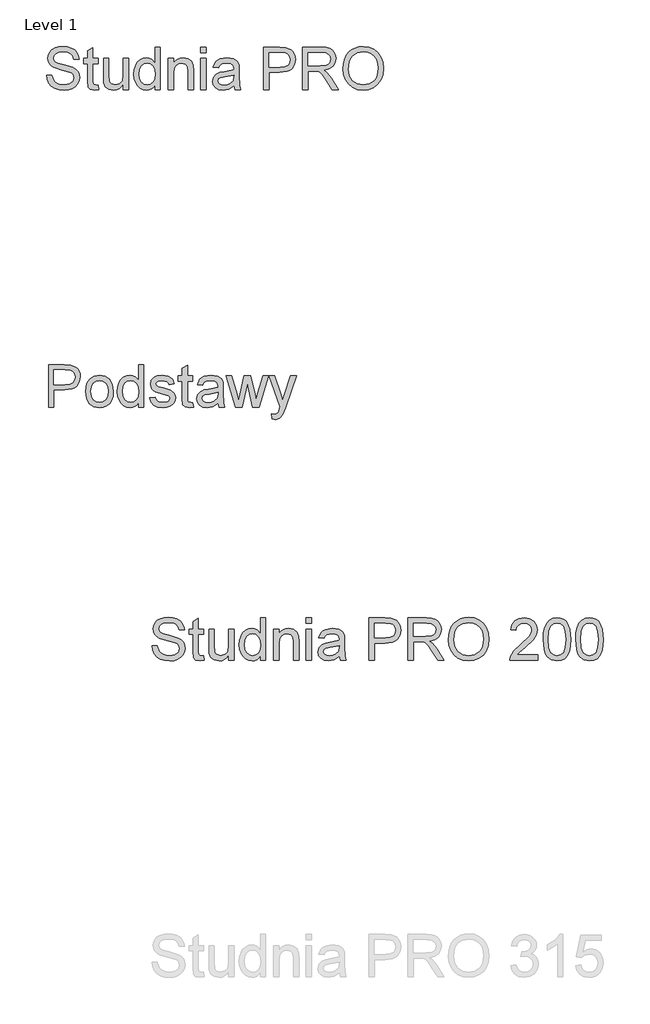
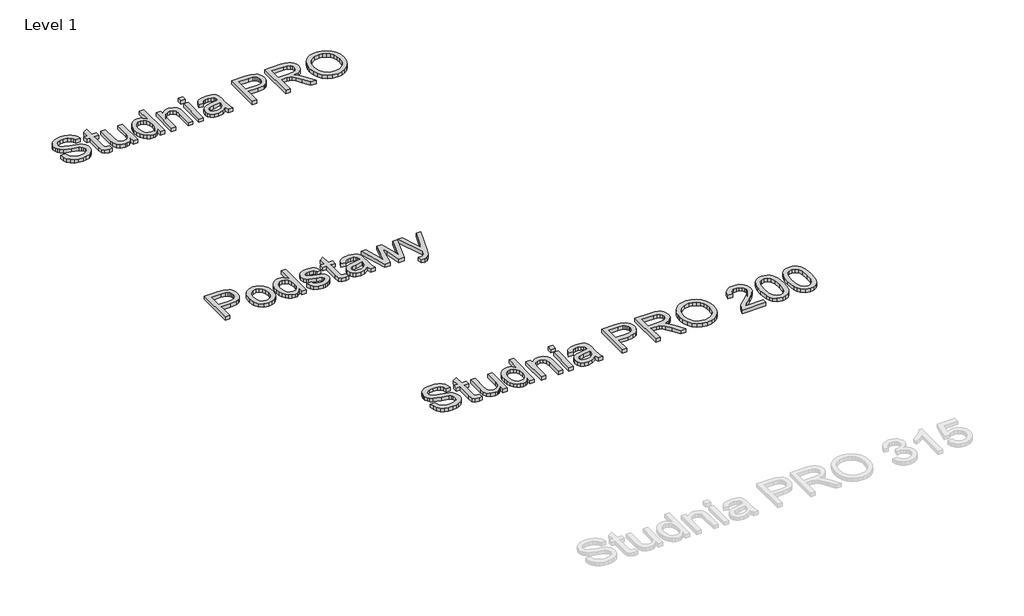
# One storey, part 8 of 8: 3 proxies.
"""IFC4 building model written with IfcOpenShell, lengths in millimetres."""

from ifc_helpers import new_model, si_unit, origin, origin_with_axes, place, context, project, spatial, polyline, outline, extrude, element, save

model = new_model("IFC4")

# Units and contexts
model_context = context("Model", 3, world=origin())
ifc_project = project(units=[si_unit("LENGTHUNIT", "METRE", prefix="MILLI")], contexts=[model_context])

# Site, building, storey
site = spatial("IfcSite", under=ifc_project)
building = spatial("IfcBuilding", under=site)
storey = spatial("IfcBuildingStorey", under=building, Name="Level 1", Elevation=0.0)

# Proxies
placement = place(None, origin())
element("IfcBuildingElementProxy", 1, Name="200mm Arial", ObjectType="200mm Arial", at=placement, inside=storey, context=model_context, shape_type="SweptSolid", body=[
    extrude(outline(polyline([(-17340.1100864, 2459.5263231), (-17314.9960089, 2459.5263231), (-17306.902605, 2434.3877201), (-17298.7724129, 2425.4972385), (-17287.1350791, 2418.4952179), (-17272.9103087, 2413.9518752), (-17257.0178065, 2412.4374277), (-17230.7755575, 2417.0236899), (-17213.8284602, 2429.6297796), (-17208.2611794, 2446.478775), (-17212.4305087, 2462.150548), (-17218.7826044, 2468.3493596), (-17229.5002332, 2473.5548898), (-17266.0677036, 2483.1443471), (-17305.431077, 2495.5297077), (-17317.9329335, 2503.9787308), (-17326.7927582, 2514.218113), (-17332.0718649, 2526.0271251), (-17333.8315671, 2539.1850377), (-17331.6549319, 2553.8941862), (-17325.1250265, 2567.6100532), (-17314.4135291, 2579.2351243), (-17299.6921179, 2587.6718847), (-17282.0215194, 2592.8038385), (-17262.46246, 2594.5144898), (-17241.2724571, 2592.7241308), (-17222.7312045, 2587.3530537), (-17207.5008899, 2578.511623), (-17196.2437009, 2566.3102035), (-17189.1190529, 2551.5090846), (-17186.2863615, 2534.8685557), (-17211.4004391, 2534.8685557), (-17216.0112267, 2549.8536156), (-17225.6252095, 2560.6693463), (-17240.6470577, 2567.2176458), (-17261.4814413, 2569.4004123), (-17282.8063343, 2567.2421712), (-17297.435775, 2560.7674481), (-17305.8970609, 2551.2393045), (-17308.7174895, 2539.9208017), (-17306.718664, 2530.2700307), (-17300.7221875, 2522.5077206), (-17286.5464679, 2515.5670137), (-17259.7156078, 2508.4791539), (-17215.2754628, 2495.8730642), (-17200.9587218, 2486.7618534), (-17190.9707256, 2475.5169271), (-17185.1030078, 2462.2609126), (-17183.1471018, 2447.1164371), (-17185.3973134, 2431.6347365), (-17192.147948, 2417.0727408), (-17203.1230942, 2404.5402275), (-17218.0468404, 2395.1469739), (-17235.9933504, 2389.2792561), (-17256.0367878, 2387.3233501), (-17280.6419619, 2389.4325402), (-17300.8938658, 2395.7601106), (-17317.0254912, 2406.3305866), (-17329.2698303, 2421.1684937), (-17337.1302423, 2439.2437624), (-17340.1100864, 2459.5263231)])), origin_with_axes(), (0.0, 0.0, 1.0), 20.0),
    extrude(outline(polyline([(-17095.2478305, 2411.4073581), (-17092.1085708, 2389.7268458), (-17110.895078, 2387.3233501), (-17131.9379281, 2391.4926794), (-17142.4348277, 2402.4310374), (-17145.4759855, 2430.9296293), (-17145.4759855, 2512.8937378), (-17164.3115437, 2512.8937378), (-17164.3115437, 2538.0078154), (-17145.4759855, 2538.0078154), (-17145.4759855, 2573.8640472), (-17120.361908, 2588.6283779), (-17120.361908, 2538.0078154), (-17095.2478305, 2538.0078154), (-17095.2478305, 2512.8937378), (-17120.361908, 2512.8937378), (-17120.361908, 2431.6653933), (-17119.0375328, 2418.7159471), (-17114.7455762, 2414.1296849), (-17106.1861884, 2412.4374277), (-17095.2478305, 2411.4073581)])), origin_with_axes(), (0.0, 0.0, 1.0), 20.0),
    extrude(outline(polyline([(-16975.9559622, 2390.4626098), (-16975.9559622, 2415.821942), (-16985.0426474, 2403.3538081), (-16995.6253862, 2394.4479981), (-17007.7041783, 2389.1045121), (-17021.279024, 2387.3233501), (-17044.8970481, 2392.3265453), (-17061.1819577, 2404.883584), (-17068.6622249, 2423.3757857), (-17070.1337529, 2446.7240296), (-17070.1337529, 2538.0078154), (-17045.0196754, 2538.0078154), (-17045.0196754, 2458.5453044), (-17043.4990965, 2432.9407175), (-17039.8386706, 2424.3997239), (-17033.5662826, 2417.9066067), (-17014.8533518, 2412.4374277), (-16993.8840781, 2418.029234), (-16985.5270254, 2424.6327158), (-16980.0271896, 2433.2595486), (-16975.9559622, 2461.2431057), (-16975.9559622, 2538.0078154), (-16950.8418846, 2538.0078154), (-16950.8418846, 2390.4626098), (-16975.9559622, 2390.4626098)])), origin_with_axes(), (0.0, 0.0, 1.0), 20.0),
    extrude(outline(polyline([(-16825.2714969, 2390.4626098), (-16825.2714969, 2414.1542103), (-16832.7854867, 2402.415709), (-16841.8875004, 2394.0310652), (-16852.577538, 2389.0002789), (-16864.8555996, 2387.3233501), (-16881.0914583, 2389.7513713), (-16895.9538909, 2397.0354348), (-16908.5354552, 2408.6666372), (-16917.9287088, 2424.1360751), (-16923.7780325, 2442.8183491), (-16925.7278071, 2464.0880598), (-16923.9313167, 2485.0941217), (-16918.5418454, 2504.0645699), (-16909.5655248, 2519.9202839), (-16897.008486, 2531.5821432), (-16881.821091, 2538.7558421), (-16864.9537015, 2541.1470751), (-16852.6664428, 2539.4364238), (-16841.8016612, 2534.3044699), (-16825.2714969, 2516.5235068), (-16825.2714969, 2591.3752301), (-16800.1574194, 2591.3752301), (-16800.1574194, 2390.4626098), (-16825.2714969, 2390.4626098)]), holes=[polyline([(-16900.6137295, 2464.1861617), (-16897.7810382, 2441.4694485), (-16889.2829641, 2425.3132975), (-16876.9343918, 2415.6563951), (-16862.5502058, 2412.4374277), (-16848.1721511, 2415.5092423), (-16836.1362785, 2424.7246863), (-16827.9876923, 2440.2554379), (-16825.2714969, 2462.2731753), (-16828.0367433, 2486.3449205), (-16836.3324823, 2503.0345004), (-16848.6749232, 2512.7833732), (-16863.5802754, 2516.0329975), (-16878.1116142, 2512.9121319), (-16890.0187281, 2503.5495351), (-16897.9649792, 2487.4669606), (-16900.6137295, 2464.1861617)])]), origin_with_axes(), (0.0, 0.0, 1.0), 20.0),
    extrude(outline(polyline([(-16762.4863031, 2390.4626098), (-16762.4863031, 2538.0078154), (-16737.3722255, 2538.0078154), (-16737.3722255, 2517.4064236), (-16728.6472909, 2527.7929586), (-16718.1687854, 2535.2119122), (-16705.9367091, 2539.6632843), (-16691.9510619, 2541.1470751), (-16668.2349359, 2536.3646091), (-16652.0481281, 2523.8075704), (-16644.51881, 2505.3398942), (-16643.1944348, 2481.0596825), (-16643.1944348, 2390.4626098), (-16668.3085123, 2390.4626098), (-16668.3085123, 2477.6751682), (-16671.2025174, 2499.8952407), (-16681.4296368, 2511.642939), (-16698.6710397, 2516.0329975), (-16713.3801881, 2513.5681882), (-16725.9188328, 2506.17376), (-16734.5088774, 2491.8876759), (-16737.3722255, 2468.7478984), (-16737.3722255, 2390.4626098), (-16762.4863031, 2390.4626098)])), origin_with_axes(), (0.0, 0.0, 1.0), 20.0),
    extrude(outline(polyline([(-16608.6625782, 2566.2611526), (-16608.6625782, 2591.3752301), (-16583.5485006, 2591.3752301), (-16583.5485006, 2566.2611526), (-16608.6625782, 2566.2611526)])), origin_with_axes(), (0.0, 0.0, 1.0), 20.0),
    extrude(outline(polyline([(-16608.6625782, 2390.4626098), (-16608.6625782, 2538.0078154), (-16583.5485006, 2538.0078154), (-16583.5485006, 2390.4626098), (-16608.6625782, 2390.4626098)])), origin_with_axes(), (0.0, 0.0, 1.0), 20.0),
    extrude(outline(polyline([(-16451.6995936, 2409.298168), (-16476.0533816, 2392.2774943), (-16502.9578182, 2387.3233501), (-16523.945486, 2390.3031943), (-16539.4271867, 2399.2427268), (-16548.9737245, 2412.8175724), (-16552.1559037, 2429.703356), (-16547.3489123, 2449.5689837), (-16534.7182971, 2463.9899579), (-16517.1335378, 2472.2305146), (-16495.4039746, 2476.0074364), (-16451.8467464, 2484.6404006), (-16451.6995936, 2490.2322069), (-16453.4286389, 2501.440345), (-16458.6157751, 2508.7734595), (-16470.2163207, 2514.218113), (-16486.378603, 2516.0329975), (-16501.3391374, 2514.8251183), (-16511.7869861, 2511.2014806), (-16518.9116341, 2504.499897), (-16523.9025665, 2494.0581797), (-16549.016644, 2497.1974394), (-16538.1518624, 2521.7229057), (-16528.8934989, 2529.9757251), (-16516.2751464, 2536.094829), (-16483.1412414, 2541.1470751), (-16452.7051377, 2536.6834402), (-16435.5127858, 2525.4753021), (-16427.8117893, 2508.430103), (-16426.585516, 2486.4552851), (-16426.585516, 2455.209841), (-16425.3101918, 2411.5790364), (-16420.3069966, 2390.4626098), (-16445.4210742, 2390.4626098), (-16451.6995936, 2409.298168)]), holes=[polyline([(-16451.6995936, 2459.5263231), (-16492.215664, 2451.8253266), (-16513.8225998, 2447.7540992), (-16523.6082609, 2441.1322233), (-16527.0418262, 2431.4691896), (-16525.1717594, 2424.0011851), (-16519.5615589, 2417.8820812), (-16510.3338522, 2413.7985911), (-16497.6112666, 2412.4374277), (-16484.1222601, 2413.9396125), (-16472.2028834, 2418.4461669), (-16455.8198719, 2432.9897685), (-16451.8467464, 2452.4139378), (-16451.6995936, 2459.5263231)])]), origin_with_axes(), (0.0, 0.0, 1.0), 20.0),
    extrude(outline(polyline([(-16310.4329074, 2390.4626098), (-16310.4329074, 2591.3752301), (-16235.9735916, 2591.3752301), (-16205.9544208, 2589.4622438), (-16181.5515818, 2580.0689901), (-16172.6794943, 2571.7425943), (-16165.732656, 2560.6448208), (-16161.2444956, 2547.5543531), (-16159.7484422, 2533.2498749), (-16163.7890128, 2509.5705371), (-16175.9107245, 2489.8397995), (-16185.6182107, 2482.071358), (-16198.5783868, 2476.5224712), (-16234.2568089, 2472.0833618), (-16285.3188299, 2472.0833618), (-16285.3188299, 2390.4626098), (-16310.4329074, 2390.4626098)]), holes=[polyline([(-16285.3188299, 2497.1974394), (-16232.785281, 2497.1974394), (-16210.5161575, 2499.5028332), (-16195.8008777, 2506.4190147), (-16187.5971092, 2517.5167882), (-16184.8625197, 2532.3669581), (-16186.4750691, 2543.6486726), (-16191.3127174, 2553.1645536), (-16198.7745905, 2560.3259897), (-16208.2598146, 2564.5443699), (-16233.3738922, 2566.2611526), (-16285.3188299, 2566.2611526), (-16285.3188299, 2497.1974394)])]), origin_with_axes(), (0.0, 0.0, 1.0), 20.0),
    extrude(outline(polyline([(-16125.2165856, 2390.4626098), (-16125.2165856, 2591.3752301), (-16038.6416894, 2591.3752301), (-16015.3731532, 2590.0201981), (-15998.44445, 2585.9551021), (-15986.0713523, 2578.4503094), (-15976.4696322, 2566.7761874), (-15970.3076088, 2552.3000309), (-15968.253601, 2536.3891346), (-15971.6565094, 2516.5970832), (-15981.8652348, 2500.1895463), (-15999.1863454, 2488.159805), (-16023.9264096, 2481.5011409), (-16009.6525882, 2470.7589866), (-15989.2964511, 2444.9091451), (-15955.7946641, 2390.4626098), (-15984.979969, 2390.4626098), (-16011.1241161, 2432.1068517), (-16030.0087252, 2459.6734759), (-16043.2770025, 2472.6964985), (-16055.2209046, 2477.4789644), (-16069.7890316, 2478.3618812), (-16100.102508, 2478.3618812), (-16100.102508, 2390.4626098), (-16125.2165856, 2390.4626098)]), holes=[polyline([(-16100.102508, 2503.4759587), (-16043.8901392, 2503.4759587), (-16015.219869, 2507.0321514), (-16005.7898272, 2511.6552018), (-15998.9349594, 2518.4119678), (-15993.3676785, 2535.4571669), (-15996.0225602, 2547.7076373), (-16003.9872054, 2557.5791375), (-16017.6908098, 2564.0906488), (-16037.5625689, 2566.2611526), (-16100.102508, 2566.2611526), (-16100.102508, 2503.4759587)])]), origin_with_axes(), (0.0, 0.0, 1.0), 20.0),
    extrude(outline(polyline([(-15933.7217444, 2488.2701696), (-15932.0478813, 2511.8360771), (-15927.026292, 2532.6980519), (-15918.6569767, 2550.856094), (-15906.9399351, 2566.3102035), (-15892.5772089, 2578.6495788), (-15876.2708394, 2587.4634182), (-15858.0208268, 2592.7517219), (-15837.8271709, 2594.5144898), (-15811.4745574, 2591.2035519), (-15787.8442705, 2581.270738), (-15768.2238975, 2565.415024), (-15753.9010251, 2544.3353857), (-15745.1454336, 2519.0496299), (-15742.2269031, 2490.5755635), (-15745.2987178, 2461.7213523), (-15754.5141618, 2436.0799772), (-15769.3643316, 2414.9635507), (-15789.340324, 2399.6841852), (-15812.7682757, 2390.4135589), (-15837.9743237, 2387.3233501), (-15864.7316075, 2390.7385213), (-15888.4967844, 2400.9840349), (-15908.0681066, 2417.1340545), (-15922.2438261, 2438.2627437), (-15930.8522648, 2462.5736123), (-15933.7217444, 2488.2701696)]), holes=[polyline([(-15908.6076668, 2488.024915), (-15903.5860776, 2456.5955298), (-15888.5213099, 2432.6464119), (-15865.8781731, 2417.4896737), (-15838.1214765, 2412.4374277), (-15809.9601098, 2417.5387247), (-15787.2801848, 2432.8426157), (-15778.556783, 2444.1151331), (-15772.3257817, 2457.5274976), (-15767.3409807, 2490.7717672), (-15769.4746962, 2513.0041024), (-15775.875843, 2532.2198053), (-15786.3788739, 2547.9344979), (-15800.8182422, 2559.6638021), (-15818.2374547, 2566.9662598), (-15837.6800181, 2569.4004123), (-15864.6948193, 2564.7099168), (-15887.6629186, 2550.6384305), (-15896.8262459, 2539.6893427), (-15903.3714798, 2525.6040608), (-15908.6076668, 2488.024915)])]), origin_with_axes(), (0.0, 0.0, 1.0), 20.0),
])
element("IfcBuildingElementProxy", 2, Name="200mm Arial", ObjectType="200mm Arial", at=placement, inside=storey, context=model_context, shape_type="SweptSolid", body=[
    extrude(outline(polyline([(-17330.6923074, 886.050427), (-17330.6923074, 1086.9630473), (-17256.2329915, 1086.9630473), (-17226.2138207, 1085.050061), (-17201.8109817, 1075.6568074), (-17192.9388943, 1067.3304115), (-17185.9920559, 1056.232638), (-17181.5038956, 1043.1421704), (-17180.0078421, 1028.8376921), (-17184.0484127, 1005.1583544), (-17196.1701245, 985.4276167), (-17205.8776106, 977.6591752), (-17218.8377867, 972.1102885), (-17254.5162089, 967.671179), (-17305.5782298, 967.671179), (-17305.5782298, 886.050427), (-17330.6923074, 886.050427)]), holes=[polyline([(-17305.5782298, 992.7852566), (-17253.0446809, 992.7852566), (-17230.7755575, 995.0906504), (-17216.0602777, 1002.0068319), (-17207.8565092, 1013.1046054), (-17205.1219197, 1027.9547753), (-17206.7344691, 1039.2364898), (-17211.5721173, 1048.7523708), (-17219.0339905, 1055.913807), (-17228.5192146, 1060.1321872), (-17253.6332921, 1061.8489698), (-17305.5782298, 1061.8489698), (-17305.5782298, 992.7852566)])]), origin_with_axes(), (0.0, 0.0, 1.0), 20.0),
    extrude(outline(polyline([(-17154.8937646, 959.8230298), (-17149.4613738, 995.3972187), (-17142.6708853, 1009.2203847), (-17133.1642014, 1020.4009317), (-17113.0287936, 1032.6514021), (-17088.9202601, 1036.7348923), (-17062.5369897, 1031.762354), (-17041.4634828, 1016.8447391), (-17027.6495138, 993.1592699), (-17023.0448575, 961.883169), (-17025.0804712, 936.5115741), (-17031.1873124, 917.1977693), (-17041.1875713, 902.7338755), (-17054.9034383, 891.9120135), (-17071.1944793, 885.1613789), (-17088.9202601, 882.9111674), (-17115.6223616, 887.8653116), (-17136.6713431, 902.7277442), (-17150.3381592, 926.909854), (-17154.8937646, 959.8230298)]), holes=[polyline([(-17129.7796871, 959.8720807), (-17126.8734193, 937.1431048), (-17118.154616, 920.9501657), (-17105.0334915, 911.2564751), (-17088.9202601, 908.0252449), (-17072.8806052, 911.2748692), (-17059.7840061, 921.0237421), (-17051.0652028, 937.431279), (-17048.1589351, 960.6568957), (-17051.0835969, 982.723684), (-17059.8575825, 998.695894), (-17072.9725756, 1008.3895845), (-17088.9202601, 1011.6208147), (-17105.0334915, 1008.4018473), (-17118.154616, 998.7449449), (-17126.8734193, 982.5887939), (-17129.7796871, 959.8720807)])]), origin_with_axes(), (0.0, 0.0, 1.0), 20.0),
    extrude(outline(polyline([(-16903.7529892, 886.050427), (-16903.7529892, 909.7420275), (-16911.266979, 898.0035262), (-16920.3689927, 889.6188824), (-16931.0590303, 884.5880961), (-16943.3370919, 882.9111674), (-16959.5729506, 885.3391885), (-16974.4353832, 892.623252), (-16987.0169475, 904.2544544), (-16996.4102011, 919.7238923), (-17002.2595248, 938.4061663), (-17004.2092994, 959.675877), (-17002.412809, 980.6819389), (-16997.0233377, 999.6523872), (-16988.0470171, 1015.5081011), (-16975.4899783, 1027.1699604), (-16960.3025833, 1034.3436593), (-16943.4351938, 1036.7348923), (-16931.1479351, 1035.024241), (-16920.2831536, 1029.8922872), (-16903.7529892, 1012.1113241), (-16903.7529892, 1086.9630473), (-16878.6389117, 1086.9630473), (-16878.6389117, 886.050427), (-16903.7529892, 886.050427)]), holes=[polyline([(-16979.0952218, 959.7739789), (-16976.2625305, 937.0572657), (-16967.7644564, 920.9011147), (-16955.4158841, 911.2442123), (-16941.0316981, 908.0252449), (-16926.6536434, 911.0970596), (-16914.6177708, 920.3125035), (-16906.4691846, 935.8432551), (-16903.7529892, 957.8609925), (-16906.5182356, 981.9327377), (-16914.8139746, 998.6223176), (-16927.1564155, 1008.3711904), (-16942.0617677, 1011.6208147), (-16956.5931065, 1008.4999491), (-16968.5002204, 999.1373524), (-16976.4464715, 983.0547778), (-16979.0952218, 959.7739789)])]), origin_with_axes(), (0.0, 0.0, 1.0), 20.0),
    extrude(outline(polyline([(-16850.3855745, 930.0000627), (-16825.2714969, 933.1393224), (-16821.3106341, 922.3971682), (-16813.6464259, 914.499968), (-16802.2298213, 909.6439257), (-16787.0117694, 908.0252449), (-16771.9776586, 909.5090356), (-16761.4071826, 913.9604077), (-16755.1531886, 920.4106054), (-16753.068524, 927.8908726), (-16755.1654514, 934.2920193), (-16761.4562335, 939.1725871), (-16787.306075, 946.3340233), (-16825.1243441, 958.621282), (-16834.6954074, 964.7955681), (-16841.629983, 972.9686798), (-16847.2463148, 993.226715), (-16842.733629, 1011.9396458), (-16830.4218449, 1026.2379927), (-16814.4557663, 1033.669209), (-16792.8488304, 1036.7348923), (-16762.2900994, 1031.8052735), (-16750.861232, 1026.0050007), (-16742.86593, 1018.4634198), (-16734.2329659, 995.9245163), (-16759.3470434, 992.7852566), (-16762.5169599, 1000.6885881), (-16768.7893479, 1006.6421451), (-16790.8867931, 1011.6208147), (-16805.3077673, 1010.4313296), (-16814.9217501, 1006.8628743), (-16820.3296155, 1001.7125263), (-16822.1322372, 995.7773635), (-16819.1401303, 988.4687745), (-16809.7714022, 982.9260191), (-16788.1399409, 977.5794674), (-16751.278165, 965.7581927), (-16734.1593895, 952.367288), (-16729.5056822, 942.5203133), (-16727.9544465, 930.539623), (-16729.7754623, 918.1542625), (-16735.23851, 906.504666), (-16744.1351229, 896.5044071), (-16756.2568346, 889.0670594), (-16770.898538, 884.4501404), (-16787.355126, 882.9111674), (-16812.67767, 885.8787488), (-16831.1576089, 894.7814931), (-16843.4939184, 909.5212983), (-16850.3855745, 930.0000627)])), origin_with_axes(), (0.0, 0.0, 1.0), 20.0),
    extrude(outline(polyline([(-16646.3336945, 906.9951753), (-16643.1944348, 885.3146631), (-16661.980942, 882.9111674), (-16683.0237921, 887.0804966), (-16693.5206917, 898.0188546), (-16696.5618496, 926.5174465), (-16696.5618496, 1008.481555), (-16715.3974077, 1008.481555), (-16715.3974077, 1033.5956326), (-16696.5618496, 1033.5956326), (-16696.5618496, 1069.4518644), (-16671.447772, 1084.2161951), (-16671.447772, 1033.5956326), (-16646.3336945, 1033.5956326), (-16646.3336945, 1008.481555), (-16671.447772, 1008.481555), (-16671.447772, 927.2532105), (-16670.1233968, 914.3037643), (-16665.8314402, 909.7175021), (-16657.2720525, 908.0252449), (-16646.3336945, 906.9951753)])), origin_with_axes(), (0.0, 0.0, 1.0), 20.0),
    extrude(outline(polyline([(-16527.0418262, 904.8859852), (-16551.3956143, 887.8653116), (-16578.3000508, 882.9111674), (-16599.2877187, 885.8910115), (-16614.7694193, 894.830544), (-16624.3159571, 908.4053896), (-16627.4981363, 925.2911732), (-16622.6911449, 945.1568009), (-16610.0605298, 959.5777751), (-16592.4757704, 967.8183318), (-16570.7462072, 971.5952537), (-16527.188979, 980.2282178), (-16527.0418262, 985.8200241), (-16528.7708716, 997.0281623), (-16533.9580077, 1004.3612767), (-16545.5585533, 1009.8059302), (-16561.7208356, 1011.6208147), (-16576.6813701, 1010.4129355), (-16587.1292187, 1006.7892979), (-16594.2538667, 1000.0877142), (-16599.2447991, 989.6459969), (-16624.3588766, 992.7852566), (-16613.494095, 1017.3107229), (-16604.2357315, 1025.5635424), (-16591.6173791, 1031.6826462), (-16558.483474, 1036.7348923), (-16528.0473703, 1032.2712574), (-16510.8550184, 1021.0631193), (-16503.154022, 1004.0179202), (-16501.9277486, 982.0431023), (-16501.9277486, 950.7976582), (-16500.6524244, 907.1668536), (-16495.6492293, 886.050427), (-16520.7633068, 886.050427), (-16527.0418262, 904.8859852)]), holes=[polyline([(-16527.0418262, 955.1141403), (-16567.5578966, 947.4131438), (-16589.1648324, 943.3419164), (-16598.9504935, 936.7200405), (-16602.3840588, 927.0570068), (-16600.513992, 919.5890023), (-16594.9037916, 913.4698984), (-16585.6760848, 909.3864083), (-16572.9534992, 908.0252449), (-16559.4644927, 909.5274297), (-16547.545116, 914.0339841), (-16531.1621045, 928.5775857), (-16527.188979, 948.001755), (-16527.0418262, 955.1141403)])]), origin_with_axes(), (0.0, 0.0, 1.0), 20.0),
    extrude(outline(polyline([(-16442.9194766, 886.050427), (-16487.80108, 1033.5956326), (-16461.7059838, 1033.5956326), (-16436.2485498, 947.5112457), (-16428.6456552, 916.7563109), (-16422.4161867, 946.3830743), (-16402.1581515, 1033.5956326), (-16372.2370826, 1033.5956326), (-16352.0771493, 946.6283289), (-16346.5343939, 919.7974687), (-16338.5881428, 948.0998569), (-16313.0816578, 1033.5956326), (-16286.8884597, 1033.5956326), (-16332.1134197, 886.050427), (-16362.475947, 886.050427), (-16381.7529635, 972.5762723), (-16387.3447699, 999.5542853), (-16412.2135927, 886.050427), (-16442.9194766, 886.050427)])), origin_with_axes(), (0.0, 0.0, 1.0), 20.0),
    extrude(outline(polyline([(-16269.6225314, 829.5437526), (-16272.7617911, 853.7258624), (-16260.0085486, 851.5185704), (-16248.089172, 854.2899481), (-16240.780583, 862.01547), (-16233.9134524, 880.5076717), (-16231.9514151, 886.5899873), (-16285.3188299, 1033.5956326), (-16258.8313262, 1033.5956326), (-16230.5289381, 951.680575), (-16220.6697006, 918.9145519), (-16210.8104631, 947.8546022), (-16181.72326, 1033.5956326), (-16155.4319601, 1033.5956326), (-16206.7882866, 882.5187599), (-16220.1301403, 849.7527369), (-16234.6982673, 832.0453502), (-16254.2695895, 826.4044929), (-16269.6225314, 829.5437526)])), origin_with_axes(), (0.0, 0.0, 1.0), 20.0),
])
element("IfcBuildingElementProxy", 3, Name="200mm Arial", ObjectType="200mm Arial", at=placement, inside=storey, context=model_context, shape_type="SweptSolid", body=[
    extrude(outline(polyline([(-16840.1100864, -244.8858597), (-16814.9960089, -244.8858597), (-16806.902605, -270.0244627), (-16798.7724129, -278.9149443), (-16787.1350791, -285.9169649), (-16772.9103087, -290.4603076), (-16757.0178065, -291.9747551), (-16730.7755575, -287.3884929), (-16713.8284602, -274.7824032), (-16708.2611794, -257.9334078), (-16712.4305087, -242.2616348), (-16718.7826044, -236.0628232), (-16729.5002332, -230.857293), (-16766.0677036, -221.2678356), (-16805.431077, -208.8824751), (-16817.9329335, -200.433452), (-16826.7927582, -190.1940698), (-16832.0718649, -178.3850577), (-16833.8315671, -165.227145), (-16831.6549319, -150.5179966), (-16825.1250265, -136.8021295), (-16814.4135291, -125.1770585), (-16799.6921179, -116.7402981), (-16782.0215194, -111.6083442), (-16762.46246, -109.897693), (-16741.2724571, -111.688052), (-16722.7312045, -117.0591291), (-16707.5008899, -125.9005598), (-16696.2437009, -138.1019793), (-16689.1190529, -152.9030982), (-16686.2863615, -169.5436271), (-16711.4004391, -169.5436271), (-16716.0112267, -154.5585672), (-16725.6252095, -143.7428365), (-16740.6470577, -137.194537), (-16761.4814413, -135.0117705), (-16782.8063343, -137.1700115), (-16797.435775, -143.6447347), (-16805.8970609, -153.1728783), (-16808.7174895, -164.491381), (-16806.718664, -174.1421521), (-16800.7221875, -181.9044622), (-16786.5464679, -188.8451691), (-16759.7156078, -195.9330289), (-16715.2754628, -208.5391186), (-16700.9587218, -217.6503293), (-16690.9707256, -228.8952557), (-16685.1030078, -242.1512702), (-16683.1471018, -257.2957457), (-16685.3973134, -272.7774463), (-16692.147948, -287.339442), (-16703.1230942, -299.8719553), (-16718.0468404, -309.2652089), (-16735.9933504, -315.1329267), (-16756.0367878, -317.0888326), (-16780.6419619, -314.9796425), (-16800.8938658, -308.6520722), (-16817.0254912, -298.0815962), (-16829.2698303, -283.2436891), (-16837.1302423, -265.1684204), (-16840.1100864, -244.8858597)])), origin_with_axes(), (0.0, 0.0, 1.0), 20.0),
    extrude(outline(polyline([(-16595.2478305, -293.0048247), (-16592.1085708, -314.6853369), (-16610.895078, -317.0888326), (-16631.9379281, -312.9195034), (-16642.4348277, -301.9811454), (-16645.4759855, -273.4825535), (-16645.4759855, -191.518445), (-16664.3115437, -191.518445), (-16664.3115437, -166.4043674), (-16645.4759855, -166.4043674), (-16645.4759855, -130.5481356), (-16620.361908, -115.7838049), (-16620.361908, -166.4043674), (-16595.2478305, -166.4043674), (-16595.2478305, -191.518445), (-16620.361908, -191.518445), (-16620.361908, -272.7467895), (-16619.0375328, -285.6962357), (-16614.7455762, -290.2824979), (-16606.1861884, -291.9747551), (-16595.2478305, -293.0048247)])), origin_with_axes(), (0.0, 0.0, 1.0), 20.0),
    extrude(outline(polyline([(-16475.9559622, -313.949573), (-16475.9559622, -288.5902408), (-16485.0426474, -301.0583747), (-16495.6253862, -309.9641847), (-16507.7041783, -315.3076707), (-16521.279024, -317.0888326), (-16544.8970481, -312.0856375), (-16561.1819577, -299.5285987), (-16568.6622249, -281.0363971), (-16570.1337529, -257.6881532), (-16570.1337529, -166.4043674), (-16545.0196754, -166.4043674), (-16545.0196754, -245.8668784), (-16543.4990965, -271.4714652), (-16539.8386706, -280.0124589), (-16533.5662826, -286.5055761), (-16514.8533518, -291.9747551), (-16493.8840781, -286.3829488), (-16485.5270254, -279.779467), (-16480.0271896, -271.1526342), (-16475.9559622, -243.1690771), (-16475.9559622, -166.4043674), (-16450.8418846, -166.4043674), (-16450.8418846, -313.949573), (-16475.9559622, -313.949573)])), origin_with_axes(), (0.0, 0.0, 1.0), 20.0),
    extrude(outline(polyline([(-16325.2714969, -313.949573), (-16325.2714969, -290.2579725), (-16332.7854867, -301.9964738), (-16341.8875004, -310.3811176), (-16352.577538, -315.4119039), (-16364.8555996, -317.0888326), (-16381.0914583, -314.6608115), (-16395.9538909, -307.376748), (-16408.5354552, -295.7455456), (-16417.9287088, -280.2761077), (-16423.7780325, -261.5938337), (-16425.7278071, -240.324123), (-16423.9313167, -219.3180611), (-16418.5418454, -200.3476128), (-16409.5655248, -184.4918989), (-16397.008486, -172.8300396), (-16381.821091, -165.6563407), (-16364.9537015, -163.2651077), (-16352.6664428, -164.975759), (-16341.8016612, -170.1077128), (-16325.2714969, -187.8886759), (-16325.2714969, -113.0369527), (-16300.1574194, -113.0369527), (-16300.1574194, -313.949573), (-16325.2714969, -313.949573)]), holes=[polyline([(-16400.6137295, -240.2260211), (-16397.7810382, -262.9427343), (-16389.2829641, -279.0988853), (-16376.9343918, -288.7557877), (-16362.5502058, -291.9747551), (-16348.1721511, -288.9029404), (-16336.1362785, -279.6874965), (-16327.9876923, -264.1567449), (-16325.2714969, -242.1390075), (-16328.0367433, -218.0672623), (-16336.3324823, -201.3776824), (-16348.6749232, -191.6288096), (-16363.5802754, -188.3791853), (-16378.1116142, -191.5000509), (-16390.0187281, -200.8626476), (-16397.9649792, -216.9452222), (-16400.6137295, -240.2260211)])]), origin_with_axes(), (0.0, 0.0, 1.0), 20.0),
    extrude(outline(polyline([(-16262.4863031, -313.949573), (-16262.4863031, -166.4043674), (-16237.3722255, -166.4043674), (-16237.3722255, -187.0057592), (-16228.6472909, -176.6192242), (-16218.1687854, -169.2002706), (-16205.9367091, -164.7488984), (-16191.9510619, -163.2651077), (-16168.2349359, -168.0475737), (-16152.0481281, -180.6046124), (-16144.51881, -199.0722886), (-16143.1944348, -223.3525003), (-16143.1944348, -313.949573), (-16168.3085123, -313.949573), (-16168.3085123, -226.7370146), (-16171.2025174, -204.5169421), (-16181.4296368, -192.7692437), (-16198.6710397, -188.3791853), (-16213.3801881, -190.8439946), (-16225.9188328, -198.2384227), (-16234.5088774, -212.5245069), (-16237.3722255, -235.6642844), (-16237.3722255, -313.949573), (-16262.4863031, -313.949573)])), origin_with_axes(), (0.0, 0.0, 1.0), 20.0),
    extrude(outline(polyline([(-16108.6625782, -138.1510302), (-16108.6625782, -113.0369527), (-16083.5485006, -113.0369527), (-16083.5485006, -138.1510302), (-16108.6625782, -138.1510302)])), origin_with_axes(), (0.0, 0.0, 1.0), 20.0),
    extrude(outline(polyline([(-16108.6625782, -313.949573), (-16108.6625782, -166.4043674), (-16083.5485006, -166.4043674), (-16083.5485006, -313.949573), (-16108.6625782, -313.949573)])), origin_with_axes(), (0.0, 0.0, 1.0), 20.0),
    extrude(outline(polyline([(-15951.6995936, -295.1140148), (-15976.0533816, -312.1346884), (-16002.9578182, -317.0888326), (-16023.945486, -314.1089885), (-16039.4271867, -305.169456), (-16048.9737245, -291.5946104), (-16052.1559037, -274.7088268), (-16047.3489123, -254.8431991), (-16034.7182971, -240.4222249), (-16017.1335378, -232.1816682), (-15995.4039746, -228.4047463), (-15951.8467464, -219.7717822), (-15951.6995936, -214.1799759), (-15953.4286389, -202.9718377), (-15958.6157751, -195.6387233), (-15970.2163207, -190.1940698), (-15986.378603, -188.3791853), (-16001.3391374, -189.5870645), (-16011.7869861, -193.2107021), (-16018.9116341, -199.9122858), (-16023.9025665, -210.3540031), (-16049.016644, -207.2147434), (-16038.1518624, -182.6892771), (-16028.8934989, -174.4364576), (-16016.2751464, -168.3173538), (-15983.1412414, -163.2651077), (-15952.7051377, -167.7287426), (-15935.5127858, -178.9368807), (-15927.8117893, -195.9820798), (-15926.585516, -217.9568977), (-15926.585516, -249.2023418), (-15925.3101918, -292.8331464), (-15920.3069966, -313.949573), (-15945.4210742, -313.949573), (-15951.6995936, -295.1140148)]), holes=[polyline([(-15951.6995936, -244.8858597), (-15992.215664, -252.5868562), (-16013.8225998, -256.6580836), (-16023.6082609, -263.2799595), (-16027.0418262, -272.9429932), (-16025.1717594, -280.4109977), (-16019.5615589, -286.5301016), (-16010.3338522, -290.6135917), (-15997.6112666, -291.9747551), (-15984.1222601, -290.4725703), (-15972.2028834, -285.9660159), (-15955.8198719, -271.4224143), (-15951.8467464, -251.998245), (-15951.6995936, -244.8858597)])]), origin_with_axes(), (0.0, 0.0, 1.0), 20.0),
    extrude(outline(polyline([(-15810.4329074, -313.949573), (-15810.4329074, -113.0369527), (-15735.9735916, -113.0369527), (-15705.9544208, -114.949939), (-15681.5515818, -124.3431926), (-15672.6794943, -132.6695885), (-15665.732656, -143.767362), (-15661.2444956, -156.8578296), (-15659.7484422, -171.1623079), (-15663.7890128, -194.8416456), (-15675.9107245, -214.5723833), (-15685.6182107, -222.3408248), (-15698.5783868, -227.8897115), (-15734.2568089, -232.328821), (-15785.3188299, -232.328821), (-15785.3188299, -313.949573), (-15810.4329074, -313.949573)]), holes=[polyline([(-15785.3188299, -207.2147434), (-15732.785281, -207.2147434), (-15710.5161575, -204.9093496), (-15695.8008777, -197.9931681), (-15687.5971092, -186.8953946), (-15684.8625197, -172.0452247), (-15686.4750691, -160.7635102), (-15691.3127174, -151.2476292), (-15698.7745905, -144.086193), (-15708.2598146, -139.8678128), (-15733.3738922, -138.1510302), (-15785.3188299, -138.1510302), (-15785.3188299, -207.2147434)])]), origin_with_axes(), (0.0, 0.0, 1.0), 20.0),
    extrude(outline(polyline([(-15625.2165856, -313.949573), (-15625.2165856, -113.0369527), (-15538.6416894, -113.0369527), (-15515.3731532, -114.3919847), (-15498.44445, -118.4570807), (-15486.0713523, -125.9618734), (-15476.4696322, -137.6359954), (-15470.3076088, -152.1121519), (-15468.253601, -168.0230482), (-15471.6565094, -187.8150995), (-15481.8652348, -204.2226365), (-15499.1863454, -216.2523778), (-15523.9264096, -222.9110419), (-15509.6525882, -233.6531961), (-15489.2964511, -259.5030377), (-15455.7946641, -313.949573), (-15484.979969, -313.949573), (-15511.1241161, -272.3053311), (-15530.0087252, -244.7387069), (-15543.2770025, -231.7156843), (-15555.2209046, -226.9332184), (-15569.7890316, -226.0503016), (-15600.102508, -226.0503016), (-15600.102508, -313.949573), (-15625.2165856, -313.949573)]), holes=[polyline([(-15600.102508, -200.936224), (-15543.8901392, -200.936224), (-15515.219869, -197.3800314), (-15505.7898272, -192.756981), (-15498.9349594, -186.000215), (-15493.3676785, -168.9550159), (-15496.0225602, -156.7045455), (-15503.9872054, -146.8330453), (-15517.6908098, -140.321534), (-15537.5625689, -138.1510302), (-15600.102508, -138.1510302), (-15600.102508, -200.936224)])]), origin_with_axes(), (0.0, 0.0, 1.0), 20.0),
    extrude(outline(polyline([(-15433.7217444, -216.1420132), (-15432.0478813, -192.5761057), (-15427.026292, -171.7141309), (-15418.6569767, -153.5560887), (-15406.9399351, -138.1019793), (-15392.5772089, -125.762604), (-15376.2708394, -116.9487645), (-15358.0208268, -111.6604609), (-15337.8271709, -109.897693), (-15311.4745574, -113.2086309), (-15287.8442705, -123.1414448), (-15268.2238975, -138.9971588), (-15253.9010251, -160.0767971), (-15245.1454336, -185.3625529), (-15242.2269031, -213.8366193), (-15245.2987178, -242.6908305), (-15254.5141618, -268.3322056), (-15269.3643316, -289.4486321), (-15289.340324, -304.7279976), (-15312.7682757, -313.9986239), (-15337.9743237, -317.0888326), (-15364.7316075, -313.6736615), (-15388.4967844, -303.4281479), (-15408.0681066, -287.2781283), (-15422.2438261, -266.149439), (-15430.8522648, -241.8385705), (-15433.7217444, -216.1420132)]), holes=[polyline([(-15408.6076668, -216.3872678), (-15403.5860776, -247.816653), (-15388.5213099, -271.7657708), (-15365.8781731, -286.922509), (-15338.1214765, -291.9747551), (-15309.9601098, -286.8734581), (-15287.2801848, -271.5695671), (-15278.556783, -260.2970496), (-15272.3257817, -246.8846852), (-15267.3409807, -213.6404156), (-15269.4746962, -191.4080804), (-15275.875843, -172.1923775), (-15286.3788739, -156.4776849), (-15300.8182422, -144.7483806), (-15318.2374547, -137.445923), (-15337.6800181, -135.0117705), (-15364.6948193, -139.7022659), (-15387.6629186, -153.7737523), (-15396.8262459, -164.7228401), (-15403.3714798, -178.808122), (-15408.6076668, -216.3872678)])]), origin_with_axes(), (0.0, 0.0, 1.0), 20.0),
    extrude(outline(polyline([(-15009.9216859, -288.8354954), (-15009.9216859, -313.949573), (-15141.770593, -313.949573), (-15139.0727917, -296.6345937), (-15123.8179516, -269.9754118), (-15092.3763038, -240.8636832), (-15049.0152793, -199.0232377), (-15040.8850872, -184.6022634), (-15038.1750231, -170.5736967), (-15040.731803, -157.9982638), (-15048.4021426, -147.5442838), (-15060.1927605, -140.4993436), (-15075.1103755, -138.1510302), (-15090.7760171, -140.4441613), (-15102.9467798, -147.3235546), (-15110.8010604, -158.2496499), (-15113.5172558, -172.6828868), (-15138.6313333, -169.5436271), (-15132.5428863, -145.2511527), (-15119.3788422, -127.5069778), (-15099.8259142, -116.6544589), (-15074.5708152, -113.0369527), (-15049.1317752, -117.0591291), (-15029.6156354, -129.1256586), (-15017.199618, -147.1518763), (-15013.0609456, -169.0531178), (-15017.5245805, -192.8673456), (-15032.3624876, -217.4909138), (-15068.3413467, -251.9001431), (-15097.2323461, -276.0577275), (-15108.5631115, -288.8354954), (-15009.9216859, -288.8354954)])), origin_with_axes(), (0.0, 0.0, 1.0), 20.0),
    extrude(outline(polyline([(-14984.8076084, -215.1119436), (-14982.962067, -182.9529258), (-14977.425443, -157.3054194), (-14968.2529186, -137.7770168), (-14955.4996761, -123.9753106), (-14939.073745, -115.7715422), (-14918.8831548, -113.0369527), (-14903.4075856, -114.6556334), (-14889.5506971, -119.5116758), (-14877.9624142, -127.4150073), (-14869.2926619, -138.1755557), (-14857.520438, -167.9004209), (-14852.9587013, -215.1119436), (-14854.7858485, -247.0870203), (-14860.2672903, -272.6732131), (-14869.3846324, -292.2200098), (-14882.1194808, -306.0768983), (-14898.5822001, -314.335849), (-14918.8831548, -317.0888326), (-14944.978251, -312.3063667), (-14964.7948278, -297.9589689), (-14973.5504193, -282.8298218), (-14979.8044132, -263.9789353), (-14984.8076084, -215.1119436)]), holes=[polyline([(-14959.6935308, -215.0628927), (-14956.7504749, -254.5672876), (-14947.921307, -277.4311536), (-14934.775657, -288.3388547), (-14918.8831548, -291.9747551), (-14902.9906526, -288.326592), (-14889.8450027, -277.3821026), (-14881.0158348, -254.5059739), (-14878.0727788, -215.0628927), (-14880.9177329, -176.4475459), (-14889.4525952, -153.4058703), (-14902.5737197, -141.9647402), (-14919.1774604, -138.1510302), (-14934.8982844, -141.5110191), (-14947.5288995, -151.5909857), (-14956.652373, -176.0674012), (-14959.6935308, -215.0628927)])]), origin_with_axes(), (0.0, 0.0, 1.0), 20.0),
    extrude(outline(polyline([(-14830.9838835, -215.1119436), (-14829.1383421, -182.9529258), (-14823.6017181, -157.3054194), (-14814.4291937, -137.7770168), (-14801.6759512, -123.9753106), (-14785.2500201, -115.7715422), (-14765.0594299, -113.0369527), (-14749.5838607, -114.6556334), (-14735.7269722, -119.5116758), (-14724.1386893, -127.4150073), (-14715.468937, -138.1755557), (-14703.6967131, -167.9004209), (-14699.1349764, -215.1119436), (-14700.9621236, -247.0870203), (-14706.4435654, -272.6732131), (-14715.5609075, -292.2200098), (-14728.2957559, -306.0768983), (-14744.7584752, -314.335849), (-14765.0594299, -317.0888326), (-14791.1545261, -312.3063667), (-14810.9711029, -297.9589689), (-14819.7266944, -282.8298218), (-14825.9806883, -263.9789353), (-14830.9838835, -215.1119436)]), holes=[polyline([(-14805.8698059, -215.0628927), (-14802.92675, -254.5672876), (-14794.0975821, -277.4311536), (-14780.9519321, -288.3388547), (-14765.0594299, -291.9747551), (-14749.1669277, -288.326592), (-14736.0212778, -277.3821026), (-14727.1921099, -254.5059739), (-14724.2490539, -215.0628927), (-14727.094008, -176.4475459), (-14735.6288703, -153.4058703), (-14748.7499948, -141.9647402), (-14765.3537355, -138.1510302), (-14781.0745594, -141.5110191), (-14793.7051746, -151.5909857), (-14802.8286481, -176.0674012), (-14805.8698059, -215.0628927)])]), origin_with_axes(), (0.0, 0.0, 1.0), 20.0),
])

save(model, "model.ifc")
